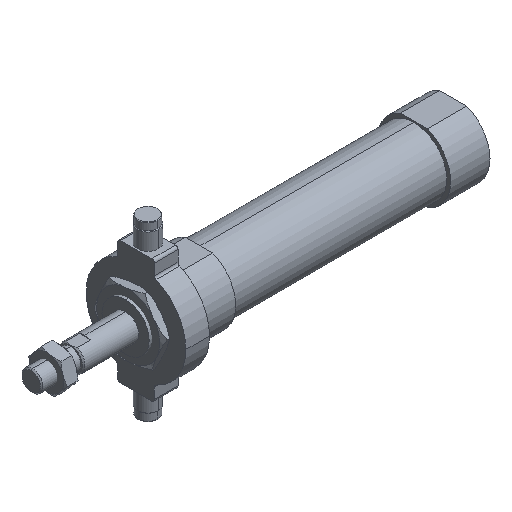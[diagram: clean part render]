
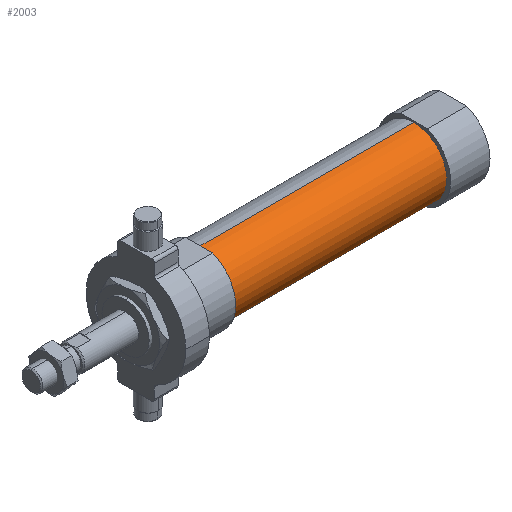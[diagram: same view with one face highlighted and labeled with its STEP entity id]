
A CAD part, isometric view. The second image highlights one B-rep face of the part: STEP entity #2003.
In plain terms, the highlighted cylindrical face has radius 12.5 mm (diameter 25 mm), a partial arc.
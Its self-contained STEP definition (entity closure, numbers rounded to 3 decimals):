
#54 = DIRECTION ( 'NONE',  ( -1., 0., 0. ) ) ;
#244 = CIRCLE ( 'NONE', #3927, 12.5 ) ;
#274 = ORIENTED_EDGE ( 'NONE', *, *, #2376, .T. ) ;
#394 = CARTESIAN_POINT ( 'NONE',  ( -6.469, 0., 12.5 ) ) ;
#454 = ORIENTED_EDGE ( 'NONE', *, *, #1265, .F. ) ;
#515 = DIRECTION ( 'NONE',  ( 0., 0., 1. ) ) ;
#584 = CARTESIAN_POINT ( 'NONE',  ( 64., 0., 12.5 ) ) ;
#600 = CARTESIAN_POINT ( 'NONE',  ( 146., 0., -12.5 ) ) ;
#685 = CARTESIAN_POINT ( 'NONE',  ( 146., 0., 0. ) ) ;
#737 = AXIS2_PLACEMENT_3D ( 'NONE', #3687, #2788, #847 ) ;
#800 = EDGE_CURVE ( 'NONE', #3328, #2826, #2870, .T. ) ;
#847 = DIRECTION ( 'NONE',  ( 0., 0., 1. ) ) ;
#965 = DIRECTION ( 'NONE',  ( 0., 0., 1. ) ) ;
#969 = VERTEX_POINT ( 'NONE', #2638 ) ;
#1265 = EDGE_CURVE ( 'NONE', #2826, #2265, #2914, .T. ) ;
#1667 = AXIS2_PLACEMENT_3D ( 'NONE', #2380, #2090, #515 ) ;
#1893 = ORIENTED_EDGE ( 'NONE', *, *, #2529, .T. ) ;
#1901 = LINE ( 'NONE', #394, #3493 ) ;
#1943 = FACE_OUTER_BOUND ( 'NONE', #2506, .T. ) ;
#1970 = DIRECTION ( 'NONE',  ( -1., 0., 0. ) ) ;
#1976 = DIRECTION ( 'NONE',  ( -1., 0., 0. ) ) ;
#2002 = VECTOR ( 'NONE', #1976, 1000. ) ;
#2003 = ADVANCED_FACE ( 'NONE', ( #1943 ), #3811, .T. ) ;
#2090 = DIRECTION ( 'NONE',  ( -1., 0., 0. ) ) ;
#2265 = VERTEX_POINT ( 'NONE', #584 ) ;
#2376 = EDGE_CURVE ( 'NONE', #3328, #969, #244, .T. ) ;
#2380 = CARTESIAN_POINT ( 'NONE',  ( -6.469, 0., 0. ) ) ;
#2506 = EDGE_LOOP ( 'NONE', ( #3032, #274, #1893, #454 ) ) ;
#2529 = EDGE_CURVE ( 'NONE', #969, #2265, #1901, .T. ) ;
#2638 = CARTESIAN_POINT ( 'NONE',  ( 146., 0., 12.5 ) ) ;
#2788 = DIRECTION ( 'NONE',  ( -1., 0., 0. ) ) ;
#2826 = VERTEX_POINT ( 'NONE', #3489 ) ;
#2870 = LINE ( 'NONE', #3867, #2002 ) ;
#2914 = CIRCLE ( 'NONE', #737, 12.5 ) ;
#3032 = ORIENTED_EDGE ( 'NONE', *, *, #800, .F. ) ;
#3328 = VERTEX_POINT ( 'NONE', #600 ) ;
#3489 = CARTESIAN_POINT ( 'NONE',  ( 64., 0., -12.5 ) ) ;
#3493 = VECTOR ( 'NONE', #54, 1000. ) ;
#3687 = CARTESIAN_POINT ( 'NONE',  ( 64., 0., 0. ) ) ;
#3811 = CYLINDRICAL_SURFACE ( 'NONE', #1667, 12.5 ) ;
#3867 = CARTESIAN_POINT ( 'NONE',  ( -6.469, 0., -12.5 ) ) ;
#3927 = AXIS2_PLACEMENT_3D ( 'NONE', #685, #1970, #965 ) ;
